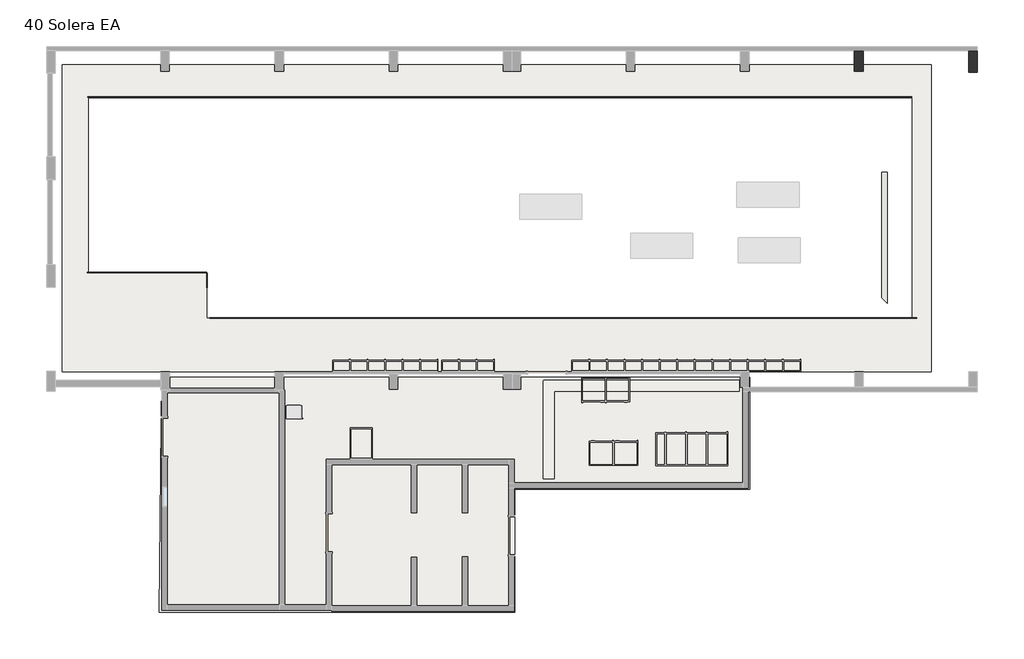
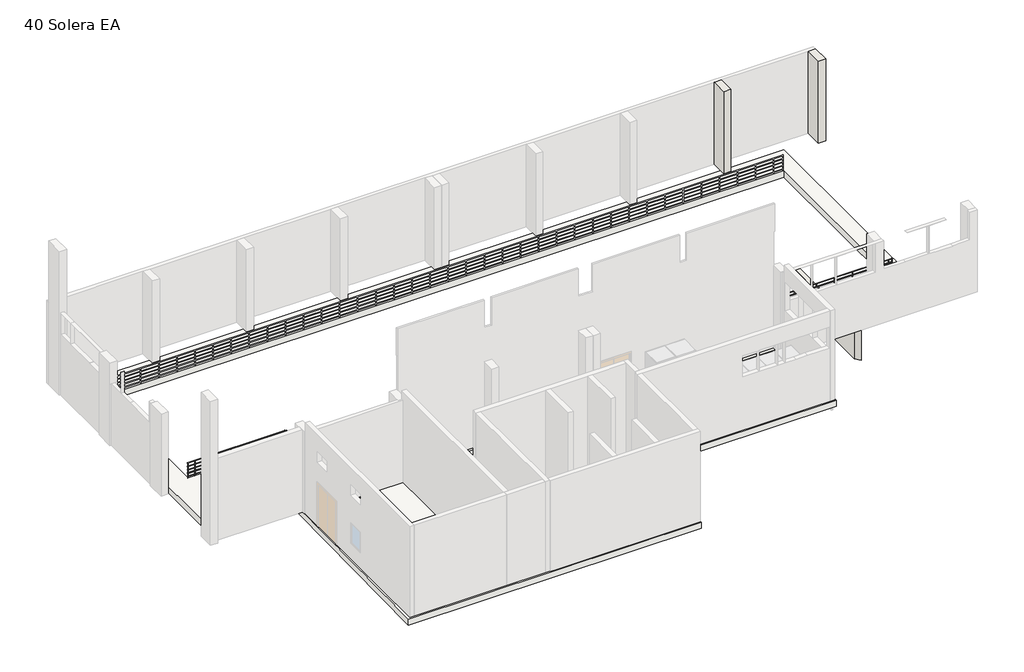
# One storey, part 2 of 3: 3 railings, 3 walls, 2 slabs.
"""IFC4 building model written with IfcOpenShell, lengths in millimetres."""

from ifc_helpers import new_model, si_unit, point, frame, frame_2d, origin, place, context, project, spatial, polyline, circle_curve, trimmed, segment, composite_curve, outline, extrude, faceted_brep, element, save

model = new_model("IFC4")

# Units and contexts
model_context = context("Model", 3, world=origin())
ifc_project = project(units=[si_unit("LENGTHUNIT", "METRE", prefix="MILLI")], contexts=[model_context])

# Site, building, storey
site = spatial("IfcSite", under=ifc_project)
building = spatial("IfcBuilding", under=site)
storey = spatial("IfcBuildingStorey", under=building, Name="40 Solera EA", Elevation=-1800.0)

# Railings
placement = place(None, origin())
element("IfcRailing", 1, ObjectType="Tubería 900 mm", at=placement, inside=storey, context=model_context, shape_type="SweptSolid", body=[
    extrude(outline(composite_curve([segment(trimmed(circle_curve(frame_2d((5785.0901943, -920.0)), 20.0), [point((5805.0901943, -920.0))], [point((5765.0901943, -920.0))], False, "CARTESIAN"), True, "CONTINUOUS"), segment(trimmed(circle_curve(frame_2d((5785.0901943, -920.0)), 20.0), [point((5765.0901943, -920.0))], [point((5805.0901943, -920.0))], False, "CARTESIAN"), True, "CONTINUOUS")], self_intersect=False)), frame((-17468.7148283, 0.0, 0.0), z_axis=(1.0, 0.0, 0.0), x_axis=(0.0, 1.0, 0.0)), (0.0, 0.0, 1.0), 5400.0),
    extrude(outline(composite_curve([segment(trimmed(circle_curve(frame_2d((5785.0901943, -1115.0)), 15.0), [point((5770.0901943, -1115.0))], [point((5800.0901943, -1115.0))], False, "CARTESIAN"), True, "CONTINUOUS"), segment(trimmed(circle_curve(frame_2d((5785.0901943, -1115.0)), 15.0), [point((5800.0901943, -1115.0))], [point((5770.0901943, -1115.0))], False, "CARTESIAN"), True, "CONTINUOUS")], self_intersect=False)), frame((-17468.7148283, 0.0, 0.0), z_axis=(1.0, 0.0, 0.0), x_axis=(0.0, 1.0, 0.0)), (0.0, 0.0, 1.0), 5400.0),
    extrude(outline(composite_curve([segment(trimmed(circle_curve(frame_2d((5785.0901943, -1315.0)), 15.0), [point((5770.0901943, -1315.0))], [point((5800.0901943, -1315.0))], False, "CARTESIAN"), True, "CONTINUOUS"), segment(trimmed(circle_curve(frame_2d((5785.0901943, -1315.0)), 15.0), [point((5800.0901943, -1315.0))], [point((5770.0901943, -1315.0))], False, "CARTESIAN"), True, "CONTINUOUS")], self_intersect=False)), frame((-17468.7148283, 0.0, 0.0), z_axis=(1.0, 0.0, 0.0), x_axis=(0.0, 1.0, 0.0)), (0.0, 0.0, 1.0), 5400.0),
    extrude(outline(composite_curve([segment(trimmed(circle_curve(frame_2d((5785.0901943, -1515.0)), 15.0), [point((5770.0901943, -1515.0))], [point((5800.0901943, -1515.0))], False, "CARTESIAN"), True, "CONTINUOUS"), segment(trimmed(circle_curve(frame_2d((5785.0901943, -1515.0)), 15.0), [point((5800.0901943, -1515.0))], [point((5770.0901943, -1515.0))], False, "CARTESIAN"), True, "CONTINUOUS")], self_intersect=False)), frame((-17468.7148283, 0.0, 0.0), z_axis=(1.0, 0.0, 0.0), x_axis=(0.0, 1.0, 0.0)), (0.0, 0.0, 1.0), 5400.0),
    extrude(outline(composite_curve([segment(trimmed(circle_curve(frame_2d((5785.0901943, -1715.0)), 15.0), [point((5770.0901943, -1715.0))], [point((5800.0901943, -1715.0))], False, "CARTESIAN"), True, "CONTINUOUS"), segment(trimmed(circle_curve(frame_2d((5785.0901943, -1715.0)), 15.0), [point((5800.0901943, -1715.0))], [point((5770.0901943, -1715.0))], False, "CARTESIAN"), True, "CONTINUOUS")], self_intersect=False)), frame((-17468.7148283, 0.0, 0.0), z_axis=(1.0, 0.0, 0.0), x_axis=(0.0, 1.0, 0.0)), (0.0, 0.0, 1.0), 5400.0),
    extrude(outline(composite_curve([segment(trimmed(circle_curve(frame_2d((-17068.7148283, 5785.0901943)), 12.5), [point((-17068.7148283, 5772.5901943))], [point((-17068.7148283, 5797.5901943))], False, "CARTESIAN"), True, "CONTINUOUS"), segment(trimmed(circle_curve(frame_2d((-17068.7148283, 5785.0901943)), 12.5), [point((-17068.7148283, 5797.5901943))], [point((-17068.7148283, 5772.5901943))], False, "CARTESIAN"), True, "CONTINUOUS")], self_intersect=False)), frame((0.0, 0.0, -1800.0), z_axis=(0.0, 0.0, 1.0), x_axis=(1.0, 0.0, 0.0)), (0.0, 0.0, 1.0), 860.0),
    extrude(outline(composite_curve([segment(trimmed(circle_curve(frame_2d((-16068.7148283, 5785.0901943)), 12.5), [point((-16068.7148283, 5772.5901943))], [point((-16068.7148283, 5797.5901943))], False, "CARTESIAN"), True, "CONTINUOUS"), segment(trimmed(circle_curve(frame_2d((-16068.7148283, 5785.0901943)), 12.5), [point((-16068.7148283, 5797.5901943))], [point((-16068.7148283, 5772.5901943))], False, "CARTESIAN"), True, "CONTINUOUS")], self_intersect=False)), frame((0.0, 0.0, -1800.0), z_axis=(0.0, 0.0, 1.0), x_axis=(1.0, 0.0, 0.0)), (0.0, 0.0, 1.0), 860.0),
    extrude(outline(composite_curve([segment(trimmed(circle_curve(frame_2d((-15068.7148283, 5785.0901943)), 12.5), [point((-15068.7148283, 5772.5901943))], [point((-15068.7148283, 5797.5901943))], False, "CARTESIAN"), True, "CONTINUOUS"), segment(trimmed(circle_curve(frame_2d((-15068.7148283, 5785.0901943)), 12.5), [point((-15068.7148283, 5797.5901943))], [point((-15068.7148283, 5772.5901943))], False, "CARTESIAN"), True, "CONTINUOUS")], self_intersect=False)), frame((0.0, 0.0, -1800.0), z_axis=(0.0, 0.0, 1.0), x_axis=(1.0, 0.0, 0.0)), (0.0, 0.0, 1.0), 860.0),
    extrude(outline(composite_curve([segment(trimmed(circle_curve(frame_2d((-14068.7148283, 5785.0901943)), 12.5), [point((-14068.7148283, 5772.5901943))], [point((-14068.7148283, 5797.5901943))], False, "CARTESIAN"), True, "CONTINUOUS"), segment(trimmed(circle_curve(frame_2d((-14068.7148283, 5785.0901943)), 12.5), [point((-14068.7148283, 5797.5901943))], [point((-14068.7148283, 5772.5901943))], False, "CARTESIAN"), True, "CONTINUOUS")], self_intersect=False)), frame((0.0, 0.0, -1800.0), z_axis=(0.0, 0.0, 1.0), x_axis=(1.0, 0.0, 0.0)), (0.0, 0.0, 1.0), 860.0),
    extrude(outline(composite_curve([segment(trimmed(circle_curve(frame_2d((-13068.7148283, 5785.0901943)), 12.5), [point((-13068.7148283, 5772.5901943))], [point((-13068.7148283, 5797.5901943))], False, "CARTESIAN"), True, "CONTINUOUS"), segment(trimmed(circle_curve(frame_2d((-13068.7148283, 5785.0901943)), 12.5), [point((-13068.7148283, 5797.5901943))], [point((-13068.7148283, 5772.5901943))], False, "CARTESIAN"), True, "CONTINUOUS")], self_intersect=False)), frame((0.0, 0.0, -1800.0), z_axis=(0.0, 0.0, 1.0), x_axis=(1.0, 0.0, 0.0)), (0.0, 0.0, 1.0), 860.0),
    extrude(outline(composite_curve([segment(trimmed(circle_curve(frame_2d((-17456.2148283, 5785.0901943)), 12.5), [point((-17456.2148283, 5772.5901943))], [point((-17456.2148283, 5797.5901943))], False, "CARTESIAN"), True, "CONTINUOUS"), segment(trimmed(circle_curve(frame_2d((-17456.2148283, 5785.0901943)), 12.5), [point((-17456.2148283, 5797.5901943))], [point((-17456.2148283, 5772.5901943))], False, "CARTESIAN"), True, "CONTINUOUS")], self_intersect=False)), frame((0.0, 0.0, -1800.0), z_axis=(0.0, 0.0, 1.0), x_axis=(1.0, 0.0, 0.0)), (0.0, 0.0, 1.0), 860.0),
    extrude(outline(composite_curve([segment(trimmed(circle_curve(frame_2d((-12081.2148283, 5785.0901943)), 12.5), [point((-12081.2148283, 5772.5901943))], [point((-12081.2148283, 5797.5901943))], False, "CARTESIAN"), True, "CONTINUOUS"), segment(trimmed(circle_curve(frame_2d((-12081.2148283, 5785.0901943)), 12.5), [point((-12081.2148283, 5797.5901943))], [point((-12081.2148283, 5772.5901943))], False, "CARTESIAN"), True, "CONTINUOUS")], self_intersect=False)), frame((0.0, 0.0, -1800.0), z_axis=(0.0, 0.0, 1.0), x_axis=(1.0, 0.0, 0.0)), (0.0, 0.0, 1.0), 860.0),
])
element("IfcRailing", 2, ObjectType="Tubería 900 mm", at=placement, inside=storey, context=model_context, shape_type="SweptSolid", body=[
    extrude(outline(composite_curve([segment(trimmed(circle_curve(frame_2d((3711.7531019, -920.0)), 20.0), [point((3691.7531019, -920.0))], [point((3731.7531019, -920.0))], False, "CARTESIAN"), True, "CONTINUOUS"), segment(trimmed(circle_curve(frame_2d((3711.7531019, -920.0)), 20.0), [point((3731.7531019, -920.0))], [point((3691.7531019, -920.0))], False, "CARTESIAN"), True, "CONTINUOUS")], self_intersect=False)), frame((-11901.3593844, 0.0, 0.0), z_axis=(1.0, 0.0, 0.0), x_axis=(0.0, 1.0, 0.0)), (0.0, 0.0, 1.0), 32200.0),
    extrude(outline(composite_curve([segment(trimmed(circle_curve(frame_2d((3711.7531019, -1115.0)), 15.0), [point((3726.7531019, -1115.0))], [point((3696.7531019, -1115.0))], False, "CARTESIAN"), True, "CONTINUOUS"), segment(trimmed(circle_curve(frame_2d((3711.7531019, -1115.0)), 15.0), [point((3696.7531019, -1115.0))], [point((3726.7531019, -1115.0))], False, "CARTESIAN"), True, "CONTINUOUS")], self_intersect=False)), frame((-11901.3593844, 0.0, 0.0), z_axis=(1.0, 0.0, 0.0), x_axis=(0.0, 1.0, 0.0)), (0.0, 0.0, 1.0), 32200.0),
    extrude(outline(composite_curve([segment(trimmed(circle_curve(frame_2d((3711.7531019, -1315.0)), 15.0), [point((3726.7531019, -1315.0))], [point((3696.7531019, -1315.0))], False, "CARTESIAN"), True, "CONTINUOUS"), segment(trimmed(circle_curve(frame_2d((3711.7531019, -1315.0)), 15.0), [point((3696.7531019, -1315.0))], [point((3726.7531019, -1315.0))], False, "CARTESIAN"), True, "CONTINUOUS")], self_intersect=False)), frame((-11901.3593844, 0.0, 0.0), z_axis=(1.0, 0.0, 0.0), x_axis=(0.0, 1.0, 0.0)), (0.0, 0.0, 1.0), 32200.0),
    extrude(outline(composite_curve([segment(trimmed(circle_curve(frame_2d((3711.7531019, -1515.0)), 15.0), [point((3726.7531019, -1515.0))], [point((3696.7531019, -1515.0))], False, "CARTESIAN"), True, "CONTINUOUS"), segment(trimmed(circle_curve(frame_2d((3711.7531019, -1515.0)), 15.0), [point((3696.7531019, -1515.0))], [point((3726.7531019, -1515.0))], False, "CARTESIAN"), True, "CONTINUOUS")], self_intersect=False)), frame((-11901.3593844, 0.0, 0.0), z_axis=(1.0, 0.0, 0.0), x_axis=(0.0, 1.0, 0.0)), (0.0, 0.0, 1.0), 32200.0),
    extrude(outline(composite_curve([segment(trimmed(circle_curve(frame_2d((3711.7531019, -1715.0)), 15.0), [point((3726.7531019, -1715.0))], [point((3696.7531019, -1715.0))], False, "CARTESIAN"), True, "CONTINUOUS"), segment(trimmed(circle_curve(frame_2d((3711.7531019, -1715.0)), 15.0), [point((3696.7531019, -1715.0))], [point((3726.7531019, -1715.0))], False, "CARTESIAN"), True, "CONTINUOUS")], self_intersect=False)), frame((-11901.3593844, 0.0, 0.0), z_axis=(1.0, 0.0, 0.0), x_axis=(0.0, 1.0, 0.0)), (0.0, 0.0, 1.0), 32200.0),
    extrude(outline(composite_curve([segment(trimmed(circle_curve(frame_2d((20098.6406156, 3711.7531019)), 12.5), [point((20098.6406156, 3724.2531019))], [point((20098.6406156, 3699.2531019))], False, "CARTESIAN"), True, "CONTINUOUS"), segment(trimmed(circle_curve(frame_2d((20098.6406156, 3711.7531019)), 12.5), [point((20098.6406156, 3699.2531019))], [point((20098.6406156, 3724.2531019))], False, "CARTESIAN"), True, "CONTINUOUS")], self_intersect=False)), frame((0.0, 0.0, -1800.0), z_axis=(0.0, 0.0, 1.0), x_axis=(1.0, 0.0, 0.0)), (0.0, 0.0, 1.0), 860.0),
    extrude(outline(composite_curve([segment(trimmed(circle_curve(frame_2d((19098.6406156, 3711.7531019)), 12.5), [point((19098.6406156, 3724.2531019))], [point((19098.6406156, 3699.2531019))], False, "CARTESIAN"), True, "CONTINUOUS"), segment(trimmed(circle_curve(frame_2d((19098.6406156, 3711.7531019)), 12.5), [point((19098.6406156, 3699.2531019))], [point((19098.6406156, 3724.2531019))], False, "CARTESIAN"), True, "CONTINUOUS")], self_intersect=False)), frame((0.0, 0.0, -1800.0), z_axis=(0.0, 0.0, 1.0), x_axis=(1.0, 0.0, 0.0)), (0.0, 0.0, 1.0), 860.0),
    extrude(outline(composite_curve([segment(trimmed(circle_curve(frame_2d((18098.6406156, 3711.7531019)), 12.5), [point((18098.6406156, 3724.2531019))], [point((18098.6406156, 3699.2531019))], False, "CARTESIAN"), True, "CONTINUOUS"), segment(trimmed(circle_curve(frame_2d((18098.6406156, 3711.7531019)), 12.5), [point((18098.6406156, 3699.2531019))], [point((18098.6406156, 3724.2531019))], False, "CARTESIAN"), True, "CONTINUOUS")], self_intersect=False)), frame((0.0, 0.0, -1800.0), z_axis=(0.0, 0.0, 1.0), x_axis=(1.0, 0.0, 0.0)), (0.0, 0.0, 1.0), 860.0),
    extrude(outline(composite_curve([segment(trimmed(circle_curve(frame_2d((17098.6406156, 3711.7531019)), 12.5), [point((17098.6406156, 3724.2531019))], [point((17098.6406156, 3699.2531019))], False, "CARTESIAN"), True, "CONTINUOUS"), segment(trimmed(circle_curve(frame_2d((17098.6406156, 3711.7531019)), 12.5), [point((17098.6406156, 3699.2531019))], [point((17098.6406156, 3724.2531019))], False, "CARTESIAN"), True, "CONTINUOUS")], self_intersect=False)), frame((0.0, 0.0, -1800.0), z_axis=(0.0, 0.0, 1.0), x_axis=(1.0, 0.0, 0.0)), (0.0, 0.0, 1.0), 860.0),
    extrude(outline(composite_curve([segment(trimmed(circle_curve(frame_2d((16098.6406156, 3711.7531019)), 12.5), [point((16098.6406156, 3724.2531019))], [point((16098.6406156, 3699.2531019))], False, "CARTESIAN"), True, "CONTINUOUS"), segment(trimmed(circle_curve(frame_2d((16098.6406156, 3711.7531019)), 12.5), [point((16098.6406156, 3699.2531019))], [point((16098.6406156, 3724.2531019))], False, "CARTESIAN"), True, "CONTINUOUS")], self_intersect=False)), frame((0.0, 0.0, -1800.0), z_axis=(0.0, 0.0, 1.0), x_axis=(1.0, 0.0, 0.0)), (0.0, 0.0, 1.0), 860.0),
    extrude(outline(composite_curve([segment(trimmed(circle_curve(frame_2d((15098.6406156, 3711.7531019)), 12.5), [point((15098.6406156, 3724.2531019))], [point((15098.6406156, 3699.2531019))], False, "CARTESIAN"), True, "CONTINUOUS"), segment(trimmed(circle_curve(frame_2d((15098.6406156, 3711.7531019)), 12.5), [point((15098.6406156, 3699.2531019))], [point((15098.6406156, 3724.2531019))], False, "CARTESIAN"), True, "CONTINUOUS")], self_intersect=False)), frame((0.0, 0.0, -1800.0), z_axis=(0.0, 0.0, 1.0), x_axis=(1.0, 0.0, 0.0)), (0.0, 0.0, 1.0), 860.0),
    extrude(outline(composite_curve([segment(trimmed(circle_curve(frame_2d((14098.6406156, 3711.7531019)), 12.5), [point((14098.6406156, 3724.2531019))], [point((14098.6406156, 3699.2531019))], False, "CARTESIAN"), True, "CONTINUOUS"), segment(trimmed(circle_curve(frame_2d((14098.6406156, 3711.7531019)), 12.5), [point((14098.6406156, 3699.2531019))], [point((14098.6406156, 3724.2531019))], False, "CARTESIAN"), True, "CONTINUOUS")], self_intersect=False)), frame((0.0, 0.0, -1800.0), z_axis=(0.0, 0.0, 1.0), x_axis=(1.0, 0.0, 0.0)), (0.0, 0.0, 1.0), 860.0),
    extrude(outline(composite_curve([segment(trimmed(circle_curve(frame_2d((13098.6406156, 3711.7531019)), 12.5), [point((13098.6406156, 3724.2531019))], [point((13098.6406156, 3699.2531019))], False, "CARTESIAN"), True, "CONTINUOUS"), segment(trimmed(circle_curve(frame_2d((13098.6406156, 3711.7531019)), 12.5), [point((13098.6406156, 3699.2531019))], [point((13098.6406156, 3724.2531019))], False, "CARTESIAN"), True, "CONTINUOUS")], self_intersect=False)), frame((0.0, 0.0, -1800.0), z_axis=(0.0, 0.0, 1.0), x_axis=(1.0, 0.0, 0.0)), (0.0, 0.0, 1.0), 860.0),
    extrude(outline(composite_curve([segment(trimmed(circle_curve(frame_2d((12098.6406156, 3711.7531019)), 12.5), [point((12098.6406156, 3724.2531019))], [point((12098.6406156, 3699.2531019))], False, "CARTESIAN"), True, "CONTINUOUS"), segment(trimmed(circle_curve(frame_2d((12098.6406156, 3711.7531019)), 12.5), [point((12098.6406156, 3699.2531019))], [point((12098.6406156, 3724.2531019))], False, "CARTESIAN"), True, "CONTINUOUS")], self_intersect=False)), frame((0.0, 0.0, -1800.0), z_axis=(0.0, 0.0, 1.0), x_axis=(1.0, 0.0, 0.0)), (0.0, 0.0, 1.0), 860.0),
    extrude(outline(composite_curve([segment(trimmed(circle_curve(frame_2d((11098.6406156, 3711.7531019)), 12.5), [point((11098.6406156, 3724.2531019))], [point((11098.6406156, 3699.2531019))], False, "CARTESIAN"), True, "CONTINUOUS"), segment(trimmed(circle_curve(frame_2d((11098.6406156, 3711.7531019)), 12.5), [point((11098.6406156, 3699.2531019))], [point((11098.6406156, 3724.2531019))], False, "CARTESIAN"), True, "CONTINUOUS")], self_intersect=False)), frame((0.0, 0.0, -1800.0), z_axis=(0.0, 0.0, 1.0), x_axis=(1.0, 0.0, 0.0)), (0.0, 0.0, 1.0), 860.0),
    extrude(outline(composite_curve([segment(trimmed(circle_curve(frame_2d((10098.6406156, 3711.7531019)), 12.5), [point((10098.6406156, 3724.2531019))], [point((10098.6406156, 3699.2531019))], False, "CARTESIAN"), True, "CONTINUOUS"), segment(trimmed(circle_curve(frame_2d((10098.6406156, 3711.7531019)), 12.5), [point((10098.6406156, 3699.2531019))], [point((10098.6406156, 3724.2531019))], False, "CARTESIAN"), True, "CONTINUOUS")], self_intersect=False)), frame((0.0, 0.0, -1800.0), z_axis=(0.0, 0.0, 1.0), x_axis=(1.0, 0.0, 0.0)), (0.0, 0.0, 1.0), 860.0),
    extrude(outline(composite_curve([segment(trimmed(circle_curve(frame_2d((9098.6406156, 3711.7531019)), 12.5), [point((9098.6406156, 3724.2531019))], [point((9098.6406156, 3699.2531019))], False, "CARTESIAN"), True, "CONTINUOUS"), segment(trimmed(circle_curve(frame_2d((9098.6406156, 3711.7531019)), 12.5), [point((9098.6406156, 3699.2531019))], [point((9098.6406156, 3724.2531019))], False, "CARTESIAN"), True, "CONTINUOUS")], self_intersect=False)), frame((0.0, 0.0, -1800.0), z_axis=(0.0, 0.0, 1.0), x_axis=(1.0, 0.0, 0.0)), (0.0, 0.0, 1.0), 860.0),
    extrude(outline(composite_curve([segment(trimmed(circle_curve(frame_2d((8098.6406156, 3711.7531019)), 12.5), [point((8098.6406156, 3724.2531019))], [point((8098.6406156, 3699.2531019))], False, "CARTESIAN"), True, "CONTINUOUS"), segment(trimmed(circle_curve(frame_2d((8098.6406156, 3711.7531019)), 12.5), [point((8098.6406156, 3699.2531019))], [point((8098.6406156, 3724.2531019))], False, "CARTESIAN"), True, "CONTINUOUS")], self_intersect=False)), frame((0.0, 0.0, -1800.0), z_axis=(0.0, 0.0, 1.0), x_axis=(1.0, 0.0, 0.0)), (0.0, 0.0, 1.0), 860.0),
    extrude(outline(composite_curve([segment(trimmed(circle_curve(frame_2d((7098.6406156, 3711.7531019)), 12.5), [point((7098.6406156, 3724.2531019))], [point((7098.6406156, 3699.2531019))], False, "CARTESIAN"), True, "CONTINUOUS"), segment(trimmed(circle_curve(frame_2d((7098.6406156, 3711.7531019)), 12.5), [point((7098.6406156, 3699.2531019))], [point((7098.6406156, 3724.2531019))], False, "CARTESIAN"), True, "CONTINUOUS")], self_intersect=False)), frame((0.0, 0.0, -1800.0), z_axis=(0.0, 0.0, 1.0), x_axis=(1.0, 0.0, 0.0)), (0.0, 0.0, 1.0), 860.0),
    extrude(outline(composite_curve([segment(trimmed(circle_curve(frame_2d((6098.6406156, 3711.7531019)), 12.5), [point((6098.6406156, 3724.2531019))], [point((6098.6406156, 3699.2531019))], False, "CARTESIAN"), True, "CONTINUOUS"), segment(trimmed(circle_curve(frame_2d((6098.6406156, 3711.7531019)), 12.5), [point((6098.6406156, 3699.2531019))], [point((6098.6406156, 3724.2531019))], False, "CARTESIAN"), True, "CONTINUOUS")], self_intersect=False)), frame((0.0, 0.0, -1800.0), z_axis=(0.0, 0.0, 1.0), x_axis=(1.0, 0.0, 0.0)), (0.0, 0.0, 1.0), 860.0),
    extrude(outline(composite_curve([segment(trimmed(circle_curve(frame_2d((5098.6406156, 3711.7531019)), 12.5), [point((5098.6406156, 3724.2531019))], [point((5098.6406156, 3699.2531019))], False, "CARTESIAN"), True, "CONTINUOUS"), segment(trimmed(circle_curve(frame_2d((5098.6406156, 3711.7531019)), 12.5), [point((5098.6406156, 3699.2531019))], [point((5098.6406156, 3724.2531019))], False, "CARTESIAN"), True, "CONTINUOUS")], self_intersect=False)), frame((0.0, 0.0, -1800.0), z_axis=(0.0, 0.0, 1.0), x_axis=(1.0, 0.0, 0.0)), (0.0, 0.0, 1.0), 860.0),
    extrude(outline(composite_curve([segment(trimmed(circle_curve(frame_2d((4098.6406156, 3711.7531019)), 12.5), [point((4098.6406156, 3724.2531019))], [point((4098.6406156, 3699.2531019))], False, "CARTESIAN"), True, "CONTINUOUS"), segment(trimmed(circle_curve(frame_2d((4098.6406156, 3711.7531019)), 12.5), [point((4098.6406156, 3699.2531019))], [point((4098.6406156, 3724.2531019))], False, "CARTESIAN"), True, "CONTINUOUS")], self_intersect=False)), frame((0.0, 0.0, -1800.0), z_axis=(0.0, 0.0, 1.0), x_axis=(1.0, 0.0, 0.0)), (0.0, 0.0, 1.0), 860.0),
    extrude(outline(composite_curve([segment(trimmed(circle_curve(frame_2d((3098.6406156, 3711.7531019)), 12.5), [point((3098.6406156, 3724.2531019))], [point((3098.6406156, 3699.2531019))], False, "CARTESIAN"), True, "CONTINUOUS"), segment(trimmed(circle_curve(frame_2d((3098.6406156, 3711.7531019)), 12.5), [point((3098.6406156, 3699.2531019))], [point((3098.6406156, 3724.2531019))], False, "CARTESIAN"), True, "CONTINUOUS")], self_intersect=False)), frame((0.0, 0.0, -1800.0), z_axis=(0.0, 0.0, 1.0), x_axis=(1.0, 0.0, 0.0)), (0.0, 0.0, 1.0), 860.0),
    extrude(outline(composite_curve([segment(trimmed(circle_curve(frame_2d((2098.6406156, 3711.7531019)), 12.5), [point((2098.6406156, 3724.2531019))], [point((2098.6406156, 3699.2531019))], False, "CARTESIAN"), True, "CONTINUOUS"), segment(trimmed(circle_curve(frame_2d((2098.6406156, 3711.7531019)), 12.5), [point((2098.6406156, 3699.2531019))], [point((2098.6406156, 3724.2531019))], False, "CARTESIAN"), True, "CONTINUOUS")], self_intersect=False)), frame((0.0, 0.0, -1800.0), z_axis=(0.0, 0.0, 1.0), x_axis=(1.0, 0.0, 0.0)), (0.0, 0.0, 1.0), 860.0),
    extrude(outline(composite_curve([segment(trimmed(circle_curve(frame_2d((1098.6406156, 3711.7531019)), 12.5), [point((1098.6406156, 3724.2531019))], [point((1098.6406156, 3699.2531019))], False, "CARTESIAN"), True, "CONTINUOUS"), segment(trimmed(circle_curve(frame_2d((1098.6406156, 3711.7531019)), 12.5), [point((1098.6406156, 3699.2531019))], [point((1098.6406156, 3724.2531019))], False, "CARTESIAN"), True, "CONTINUOUS")], self_intersect=False)), frame((0.0, 0.0, -1800.0), z_axis=(0.0, 0.0, 1.0), x_axis=(1.0, 0.0, 0.0)), (0.0, 0.0, 1.0), 860.0),
    extrude(outline(composite_curve([segment(trimmed(circle_curve(frame_2d((98.6406156, 3711.7531019)), 12.5), [point((98.6406156, 3724.2531019))], [point((98.6406156, 3699.2531019))], False, "CARTESIAN"), True, "CONTINUOUS"), segment(trimmed(circle_curve(frame_2d((98.6406156, 3711.7531019)), 12.5), [point((98.6406156, 3699.2531019))], [point((98.6406156, 3724.2531019))], False, "CARTESIAN"), True, "CONTINUOUS")], self_intersect=False)), frame((0.0, 0.0, -1800.0), z_axis=(0.0, 0.0, 1.0), x_axis=(1.0, 0.0, 0.0)), (0.0, 0.0, 1.0), 860.0),
    extrude(outline(composite_curve([segment(trimmed(circle_curve(frame_2d((-901.3593844, 3711.7531019)), 12.5), [point((-901.3593844, 3724.2531019))], [point((-901.3593844, 3699.2531019))], False, "CARTESIAN"), True, "CONTINUOUS"), segment(trimmed(circle_curve(frame_2d((-901.3593844, 3711.7531019)), 12.5), [point((-901.3593844, 3699.2531019))], [point((-901.3593844, 3724.2531019))], False, "CARTESIAN"), True, "CONTINUOUS")], self_intersect=False)), frame((0.0, 0.0, -1800.0), z_axis=(0.0, 0.0, 1.0), x_axis=(1.0, 0.0, 0.0)), (0.0, 0.0, 1.0), 860.0),
    extrude(outline(composite_curve([segment(trimmed(circle_curve(frame_2d((-1901.3593844, 3711.7531019)), 12.5), [point((-1901.3593844, 3724.2531019))], [point((-1901.3593844, 3699.2531019))], False, "CARTESIAN"), True, "CONTINUOUS"), segment(trimmed(circle_curve(frame_2d((-1901.3593844, 3711.7531019)), 12.5), [point((-1901.3593844, 3699.2531019))], [point((-1901.3593844, 3724.2531019))], False, "CARTESIAN"), True, "CONTINUOUS")], self_intersect=False)), frame((0.0, 0.0, -1800.0), z_axis=(0.0, 0.0, 1.0), x_axis=(1.0, 0.0, 0.0)), (0.0, 0.0, 1.0), 860.0),
    extrude(outline(composite_curve([segment(trimmed(circle_curve(frame_2d((-2901.3593844, 3711.7531019)), 12.5), [point((-2901.3593844, 3724.2531019))], [point((-2901.3593844, 3699.2531019))], False, "CARTESIAN"), True, "CONTINUOUS"), segment(trimmed(circle_curve(frame_2d((-2901.3593844, 3711.7531019)), 12.5), [point((-2901.3593844, 3699.2531019))], [point((-2901.3593844, 3724.2531019))], False, "CARTESIAN"), True, "CONTINUOUS")], self_intersect=False)), frame((0.0, 0.0, -1800.0), z_axis=(0.0, 0.0, 1.0), x_axis=(1.0, 0.0, 0.0)), (0.0, 0.0, 1.0), 860.0),
    extrude(outline(composite_curve([segment(trimmed(circle_curve(frame_2d((-3901.3593844, 3711.7531019)), 12.5), [point((-3901.3593844, 3724.2531019))], [point((-3901.3593844, 3699.2531019))], False, "CARTESIAN"), True, "CONTINUOUS"), segment(trimmed(circle_curve(frame_2d((-3901.3593844, 3711.7531019)), 12.5), [point((-3901.3593844, 3699.2531019))], [point((-3901.3593844, 3724.2531019))], False, "CARTESIAN"), True, "CONTINUOUS")], self_intersect=False)), frame((0.0, 0.0, -1800.0), z_axis=(0.0, 0.0, 1.0), x_axis=(1.0, 0.0, 0.0)), (0.0, 0.0, 1.0), 860.0),
    extrude(outline(composite_curve([segment(trimmed(circle_curve(frame_2d((-4901.3593844, 3711.7531019)), 12.5), [point((-4901.3593844, 3724.2531019))], [point((-4901.3593844, 3699.2531019))], False, "CARTESIAN"), True, "CONTINUOUS"), segment(trimmed(circle_curve(frame_2d((-4901.3593844, 3711.7531019)), 12.5), [point((-4901.3593844, 3699.2531019))], [point((-4901.3593844, 3724.2531019))], False, "CARTESIAN"), True, "CONTINUOUS")], self_intersect=False)), frame((0.0, 0.0, -1800.0), z_axis=(0.0, 0.0, 1.0), x_axis=(1.0, 0.0, 0.0)), (0.0, 0.0, 1.0), 860.0),
    extrude(outline(composite_curve([segment(trimmed(circle_curve(frame_2d((-5901.3593844, 3711.7531019)), 12.5), [point((-5901.3593844, 3724.2531019))], [point((-5901.3593844, 3699.2531019))], False, "CARTESIAN"), True, "CONTINUOUS"), segment(trimmed(circle_curve(frame_2d((-5901.3593844, 3711.7531019)), 12.5), [point((-5901.3593844, 3699.2531019))], [point((-5901.3593844, 3724.2531019))], False, "CARTESIAN"), True, "CONTINUOUS")], self_intersect=False)), frame((0.0, 0.0, -1800.0), z_axis=(0.0, 0.0, 1.0), x_axis=(1.0, 0.0, 0.0)), (0.0, 0.0, 1.0), 860.0),
    extrude(outline(composite_curve([segment(trimmed(circle_curve(frame_2d((-6901.3593844, 3711.7531019)), 12.5), [point((-6901.3593844, 3724.2531019))], [point((-6901.3593844, 3699.2531019))], False, "CARTESIAN"), True, "CONTINUOUS"), segment(trimmed(circle_curve(frame_2d((-6901.3593844, 3711.7531019)), 12.5), [point((-6901.3593844, 3699.2531019))], [point((-6901.3593844, 3724.2531019))], False, "CARTESIAN"), True, "CONTINUOUS")], self_intersect=False)), frame((0.0, 0.0, -1800.0), z_axis=(0.0, 0.0, 1.0), x_axis=(1.0, 0.0, 0.0)), (0.0, 0.0, 1.0), 860.0),
    extrude(outline(composite_curve([segment(trimmed(circle_curve(frame_2d((-7901.3593844, 3711.7531019)), 12.5), [point((-7901.3593844, 3724.2531019))], [point((-7901.3593844, 3699.2531019))], False, "CARTESIAN"), True, "CONTINUOUS"), segment(trimmed(circle_curve(frame_2d((-7901.3593844, 3711.7531019)), 12.5), [point((-7901.3593844, 3699.2531019))], [point((-7901.3593844, 3724.2531019))], False, "CARTESIAN"), True, "CONTINUOUS")], self_intersect=False)), frame((0.0, 0.0, -1800.0), z_axis=(0.0, 0.0, 1.0), x_axis=(1.0, 0.0, 0.0)), (0.0, 0.0, 1.0), 860.0),
    extrude(outline(composite_curve([segment(trimmed(circle_curve(frame_2d((-8901.3593844, 3711.7531019)), 12.5), [point((-8901.3593844, 3724.2531019))], [point((-8901.3593844, 3699.2531019))], False, "CARTESIAN"), True, "CONTINUOUS"), segment(trimmed(circle_curve(frame_2d((-8901.3593844, 3711.7531019)), 12.5), [point((-8901.3593844, 3699.2531019))], [point((-8901.3593844, 3724.2531019))], False, "CARTESIAN"), True, "CONTINUOUS")], self_intersect=False)), frame((0.0, 0.0, -1800.0), z_axis=(0.0, 0.0, 1.0), x_axis=(1.0, 0.0, 0.0)), (0.0, 0.0, 1.0), 860.0),
    extrude(outline(composite_curve([segment(trimmed(circle_curve(frame_2d((-9901.3593844, 3711.7531019)), 12.5), [point((-9901.3593844, 3724.2531019))], [point((-9901.3593844, 3699.2531019))], False, "CARTESIAN"), True, "CONTINUOUS"), segment(trimmed(circle_curve(frame_2d((-9901.3593844, 3711.7531019)), 12.5), [point((-9901.3593844, 3699.2531019))], [point((-9901.3593844, 3724.2531019))], False, "CARTESIAN"), True, "CONTINUOUS")], self_intersect=False)), frame((0.0, 0.0, -1800.0), z_axis=(0.0, 0.0, 1.0), x_axis=(1.0, 0.0, 0.0)), (0.0, 0.0, 1.0), 860.0),
    extrude(outline(composite_curve([segment(trimmed(circle_curve(frame_2d((-10901.3593844, 3711.7531019)), 12.5), [point((-10901.3593844, 3724.2531019))], [point((-10901.3593844, 3699.2531019))], False, "CARTESIAN"), True, "CONTINUOUS"), segment(trimmed(circle_curve(frame_2d((-10901.3593844, 3711.7531019)), 12.5), [point((-10901.3593844, 3699.2531019))], [point((-10901.3593844, 3724.2531019))], False, "CARTESIAN"), True, "CONTINUOUS")], self_intersect=False)), frame((0.0, 0.0, -1800.0), z_axis=(0.0, 0.0, 1.0), x_axis=(1.0, 0.0, 0.0)), (0.0, 0.0, 1.0), 860.0),
    extrude(outline(composite_curve([segment(trimmed(circle_curve(frame_2d((20286.1406156, 3711.7531019)), 12.5), [point((20286.1406156, 3724.2531019))], [point((20286.1406156, 3699.2531019))], False, "CARTESIAN"), True, "CONTINUOUS"), segment(trimmed(circle_curve(frame_2d((20286.1406156, 3711.7531019)), 12.5), [point((20286.1406156, 3699.2531019))], [point((20286.1406156, 3724.2531019))], False, "CARTESIAN"), True, "CONTINUOUS")], self_intersect=False)), frame((0.0, 0.0, -1800.0), z_axis=(0.0, 0.0, 1.0), x_axis=(1.0, 0.0, 0.0)), (0.0, 0.0, 1.0), 860.0),
    extrude(outline(composite_curve([segment(trimmed(circle_curve(frame_2d((-11888.8593844, 3711.7531019)), 12.5), [point((-11888.8593844, 3724.2531019))], [point((-11888.8593844, 3699.2531019))], False, "CARTESIAN"), True, "CONTINUOUS"), segment(trimmed(circle_curve(frame_2d((-11888.8593844, 3711.7531019)), 12.5), [point((-11888.8593844, 3699.2531019))], [point((-11888.8593844, 3724.2531019))], False, "CARTESIAN"), True, "CONTINUOUS")], self_intersect=False)), frame((0.0, 0.0, -1800.0), z_axis=(0.0, 0.0, 1.0), x_axis=(1.0, 0.0, 0.0)), (0.0, 0.0, 1.0), 860.0),
])
element("IfcRailing", 3, ObjectType="Tubería 900 mm", at=placement, inside=storey, context=model_context, shape_type="SweptSolid", body=[
    extrude(outline(composite_curve([segment(trimmed(circle_curve(frame_2d((-920.0, -12018.2529346)), 20.0), [point((-920.0, -11998.2529346))], [point((-920.0, -12038.2529346))], False, "CARTESIAN"), True, "CONTINUOUS"), segment(trimmed(circle_curve(frame_2d((-920.0, -12018.2529346)), 20.0), [point((-920.0, -12038.2529346))], [point((-920.0, -11998.2529346))], False, "CARTESIAN"), True, "CONTINUOUS")], self_intersect=False)), frame((0.0, 5096.7720661, 0.0), z_axis=(0.0, 1.0, 0.0), x_axis=(0.0, 0.0, 1.0)), (0.0, 0.0, 1.0), 660.0),
    extrude(outline(composite_curve([segment(trimmed(circle_curve(frame_2d((-1115.0, -12018.2529346)), 15.0), [point((-1115.0, -12033.2529346))], [point((-1115.0, -12003.2529346))], False, "CARTESIAN"), True, "CONTINUOUS"), segment(trimmed(circle_curve(frame_2d((-1115.0, -12018.2529346)), 15.0), [point((-1115.0, -12003.2529346))], [point((-1115.0, -12033.2529346))], False, "CARTESIAN"), True, "CONTINUOUS")], self_intersect=False)), frame((0.0, 5096.7720661, 0.0), z_axis=(0.0, 1.0, 0.0), x_axis=(0.0, 0.0, 1.0)), (0.0, 0.0, 1.0), 660.0),
    extrude(outline(composite_curve([segment(trimmed(circle_curve(frame_2d((-1315.0, -12018.2529346)), 15.0), [point((-1315.0, -12033.2529346))], [point((-1315.0, -12003.2529346))], False, "CARTESIAN"), True, "CONTINUOUS"), segment(trimmed(circle_curve(frame_2d((-1315.0, -12018.2529346)), 15.0), [point((-1315.0, -12003.2529346))], [point((-1315.0, -12033.2529346))], False, "CARTESIAN"), True, "CONTINUOUS")], self_intersect=False)), frame((0.0, 5096.7720661, 0.0), z_axis=(0.0, 1.0, 0.0), x_axis=(0.0, 0.0, 1.0)), (0.0, 0.0, 1.0), 660.0),
    extrude(outline(composite_curve([segment(trimmed(circle_curve(frame_2d((-1515.0, -12018.2529346)), 15.0), [point((-1515.0, -12033.2529346))], [point((-1515.0, -12003.2529346))], False, "CARTESIAN"), True, "CONTINUOUS"), segment(trimmed(circle_curve(frame_2d((-1515.0, -12018.2529346)), 15.0), [point((-1515.0, -12003.2529346))], [point((-1515.0, -12033.2529346))], False, "CARTESIAN"), True, "CONTINUOUS")], self_intersect=False)), frame((0.0, 5096.7720661, 0.0), z_axis=(0.0, 1.0, 0.0), x_axis=(0.0, 0.0, 1.0)), (0.0, 0.0, 1.0), 660.0),
    extrude(outline(composite_curve([segment(trimmed(circle_curve(frame_2d((-1715.0, -12018.2529346)), 15.0), [point((-1715.0, -12033.2529346))], [point((-1715.0, -12003.2529346))], False, "CARTESIAN"), True, "CONTINUOUS"), segment(trimmed(circle_curve(frame_2d((-1715.0, -12018.2529346)), 15.0), [point((-1715.0, -12003.2529346))], [point((-1715.0, -12033.2529346))], False, "CARTESIAN"), True, "CONTINUOUS")], self_intersect=False)), frame((0.0, 5096.7720661, 0.0), z_axis=(0.0, 1.0, 0.0), x_axis=(0.0, 0.0, 1.0)), (0.0, 0.0, 1.0), 660.0),
    extrude(outline(composite_curve([segment(trimmed(circle_curve(frame_2d((-12018.2529346, 5744.2720661)), 12.5), [point((-12030.7529346, 5744.2720661))], [point((-12005.7529346, 5744.2720661))], False, "CARTESIAN"), True, "CONTINUOUS"), segment(trimmed(circle_curve(frame_2d((-12018.2529346, 5744.2720661)), 12.5), [point((-12005.7529346, 5744.2720661))], [point((-12030.7529346, 5744.2720661))], False, "CARTESIAN"), True, "CONTINUOUS")], self_intersect=False)), frame((0.0, 0.0, -1800.0), z_axis=(0.0, 0.0, 1.0), x_axis=(1.0, 0.0, 0.0)), (0.0, 0.0, 1.0), 860.0),
    extrude(outline(composite_curve([segment(trimmed(circle_curve(frame_2d((-12018.2529346, 5109.2720661)), 12.5), [point((-12030.7529346, 5109.2720661))], [point((-12005.7529346, 5109.2720661))], False, "CARTESIAN"), True, "CONTINUOUS"), segment(trimmed(circle_curve(frame_2d((-12018.2529346, 5109.2720661)), 12.5), [point((-12005.7529346, 5109.2720661))], [point((-12030.7529346, 5109.2720661))], False, "CARTESIAN"), True, "CONTINUOUS")], self_intersect=False)), frame((0.0, 0.0, -1800.0), z_axis=(0.0, 0.0, 1.0), x_axis=(1.0, 0.0, 0.0)), (0.0, 0.0, 1.0), 860.0),
])

# Slabs
element("IfcSlab", 4, ObjectType="Hormigón-362 mm comercial", at=placement, inside=storey, context=model_context, shape_type="Brep", body=[
    faceted_brep([(12694.6410121, 1001.5277503, -2162.0), (12694.6410121, -4098.4722497, -2162.0), (1994.6410121, -4098.4722497, -2162.0), (1994.6410121, -9698.4722497, -2162.0), (-14205.3589879, -9698.4722497, -2162.0), (-14083.235494, 1001.5277503, -2162.0), (12694.6410121, -4098.4722497, -1800.0), (12694.6410121, 1001.5277503, -1800.0), (-14083.235494, 1001.5277503, -1800.0), (-14205.3589879, -9698.4722497, -1800.0), (1994.6410121, -9698.4722497, -1800.0), (1994.6410121, -4098.4722497, -1800.0), (3315.2678544, 864.2433087, -1800.0), (12215.2678544, 864.2433087, -1800.0), (12215.2678544, 364.2433087, -1800.0), (3786.239267, 364.2433087, -1800.0), (3786.239267, -3621.7848089, -1800.0), (3305.2625332, -3621.7848089, -1800.0), (3305.2625332, 856.5474235, -1800.0), (3315.2678544, 856.5474235, -1800.0), (12215.2678544, 364.2433087, -2000.0), (12215.2678544, 864.2433087, -2000.0), (3315.2678544, 864.2433087, -2000.0), (3315.2678544, 856.5474235, -2000.0), (3305.2625332, 856.5474235, -2000.0), (3305.2625332, -3621.7848089, -2000.0), (3786.239267, -3621.7848089, -2000.0), (3786.239267, 364.2433087, -2000.0)], [[[0, 1, 2, 3, 4, 5]], [[6, 7, 8, 9, 10, 11], [12, 13, 14, 15, 16, 17, 18, 19]], [[1, 0, 7, 6]], [[2, 1, 6, 11]], [[3, 2, 11, 10]], [[4, 3, 10, 9]], [[5, 4, 9, 8]], [[0, 5, 8, 7]], [[20, 21, 22, 23, 24, 25, 26, 27]], [[22, 12, 19, 23]], [[22, 21, 13, 12]], [[21, 20, 14, 13]], [[14, 20, 27, 15]], [[18, 24, 23, 19]], [[26, 16, 15, 27]], [[26, 25, 17, 16]], [[25, 24, 18, 17]]]),
])
element("IfcSlab", 5, ObjectType="Hormigón-362 mm comercial", at=placement, inside=storey, context=model_context, shape_type="SweptSolid", body=[
    extrude(outline(polyline([(20963.1881312, 15236.2882841), (20963.1881312, 1273.4120119), (-18622.454862, 1273.4120119), (-18622.454862, 15236.2882841), (20963.1881312, 15236.2882841)]), holes=[polyline([(-17416.7865181, 5818.7442544), (-12016.7865181, 5818.7442544), (-12016.7865181, 3718.7442544), (20083.2134819, 3718.7442544), (20083.2134819, 13718.7442544), (-17416.7865181, 13718.7442544), (-17416.7865181, 5818.7442544)])]), frame((0.0, 0.0, -2162.0), z_axis=(0.0, 0.0, 1.0), x_axis=(1.0, 0.0, 0.0)), (0.0, 0.0, 1.0), 362.0),
])

# Walls
element("IfcWall", 6, ObjectType="Retención - Hormigón 250 mm", at=placement, inside=storey, context=model_context, shape_type="Brep", body=[
    faceted_brep([(18724.8161663, 10355.3134383, -6800.0), (18724.8161663, 10105.3134383, -6800.0), (18724.8161663, 4625.0086669, -6800.0), (18724.8161663, 4625.0086669, -5013.3149332), (18724.8161663, 10105.3134383, -5013.3149332), (18724.8161663, 10355.3134383, -5013.3149332), (18974.8161663, 10355.3134383, -6800.0), (18974.8161663, 10355.3134383, -5013.3149332), (18974.8161663, 4728.5620575, -5013.3149332), (18974.8161663, 4375.0086669, -5013.3149332), (18974.8161663, 4375.0086669, -6800.0), (18974.8161663, 4728.5620575, -6800.0)], [[[0, 1, 2, 3, 4, 5]], [[6, 7, 8, 9, 10, 11]], [[2, 1, 0, 6, 11, 10]], [[5, 4, 3, 9, 8, 7]], [[0, 5, 7, 6]], [[3, 2, 10, 9]]]),
])
element("IfcWall", 7, ObjectType="Retención - Hormigón 400 mm", at=placement, inside=storey, context=model_context, shape_type="SweptSolid", body=[
    extrude(outline(polyline([(17872.1201345, 15874.7100157), (17872.1201345, 14954.9279887), (17472.1201345, 14954.9279887), (17472.1201345, 15874.7100157), (17872.1201345, 15874.7100157)])), frame((0.0, 0.0, -1800.0), z_axis=(0.0, 0.0, 1.0), x_axis=(1.0, 0.0, 0.0)), (0.0, 0.0, 1.0), 4800.0),
])
element("IfcWall", 8, ObjectType="Retención - Hormigón 400 mm", at=placement, inside=storey, context=model_context, shape_type="SweptSolid", body=[
    extrude(outline(polyline([(23072.1201345, 15874.7100157), (23072.1201345, 14894.7100157), (22672.1201345, 14894.7100157), (22672.1201345, 15874.7100157), (23072.1201345, 15874.7100157)])), frame((0.0, 0.0, -1800.0), z_axis=(0.0, 0.0, 1.0), x_axis=(1.0, 0.0, 0.0)), (0.0, 0.0, 1.0), 4800.0),
])

save(model, "model.ifc")
